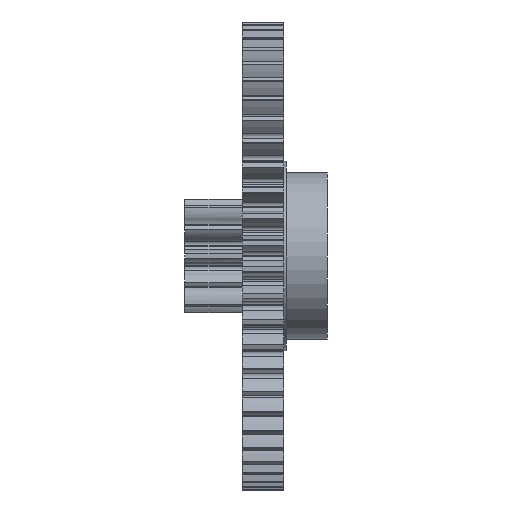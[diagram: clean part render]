
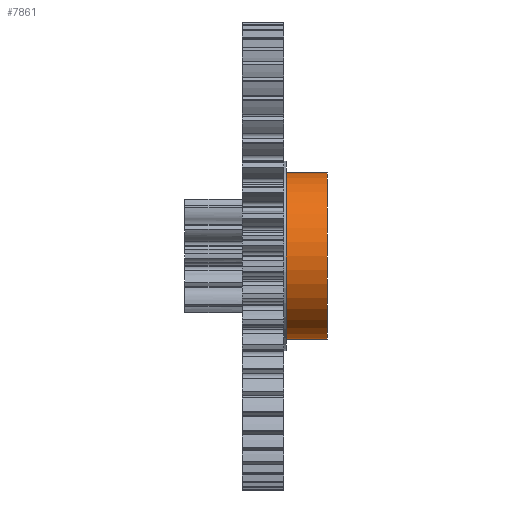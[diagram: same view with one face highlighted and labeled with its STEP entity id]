
A CAD part, front view. The second image highlights one B-rep face of the part: STEP entity #7861.
In plain terms, the highlighted cylindrical face has radius 10.075 mm (diameter 20.15 mm), a partial arc.
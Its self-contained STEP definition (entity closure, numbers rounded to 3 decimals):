
#5 = DIRECTION ( 'NONE',  ( -1., 0., 0. ) ) ;
#215 = CARTESIAN_POINT ( 'NONE',  ( 9.3, 0., -10.075 ) ) ;
#253 = CARTESIAN_POINT ( 'NONE',  ( 4.3, 0., 10.075 ) ) ;
#523 = CYLINDRICAL_SURFACE ( 'NONE', #4611, 10.075 ) ;
#648 = CARTESIAN_POINT ( 'NONE',  ( 9.3, 0., 0. ) ) ;
#2012 = VECTOR ( 'NONE', #11935, 1000. ) ;
#3681 = CARTESIAN_POINT ( 'NONE',  ( 9.3, 0., 10.075 ) ) ;
#3683 = ORIENTED_EDGE ( 'NONE', *, *, #15730, .F. ) ;
#3701 = ORIENTED_EDGE ( 'NONE', *, *, #14109, .T. ) ;
#4611 = AXIS2_PLACEMENT_3D ( 'NONE', #648, #21158, #12478 ) ;
#6323 = EDGE_CURVE ( 'NONE', #21805, #16761, #17182, .T. ) ;
#6399 = CARTESIAN_POINT ( 'NONE',  ( 9.3, 0., -10.075 ) ) ;
#7861 = ADVANCED_FACE ( 'NONE', ( #9015 ), #523, .T. ) ;
#8191 = ORIENTED_EDGE ( 'NONE', *, *, #6323, .F. ) ;
#8442 = DIRECTION ( 'NONE',  ( 1., 0., 0. ) ) ;
#8916 = VERTEX_POINT ( 'NONE', #15002 ) ;
#8994 = CARTESIAN_POINT ( 'NONE',  ( 4.3, 0., -10.075 ) ) ;
#9015 = FACE_OUTER_BOUND ( 'NONE', #10882, .T. ) ;
#9022 = AXIS2_PLACEMENT_3D ( 'NONE', #9200, #19463, #17569 ) ;
#9200 = CARTESIAN_POINT ( 'NONE',  ( 9.3, 0., 0. ) ) ;
#10882 = EDGE_LOOP ( 'NONE', ( #8191, #3683, #11700, #3701 ) ) ;
#11569 = CARTESIAN_POINT ( 'NONE',  ( 4.3, 0., 0. ) ) ;
#11700 = ORIENTED_EDGE ( 'NONE', *, *, #20721, .T. ) ;
#11935 = DIRECTION ( 'NONE',  ( -1., 0., 0. ) ) ;
#12271 = LINE ( 'NONE', #3681, #2012 ) ;
#12478 = DIRECTION ( 'NONE',  ( 0., 0., 1. ) ) ;
#13814 = VECTOR ( 'NONE', #5, 1000. ) ;
#14109 = EDGE_CURVE ( 'NONE', #21861, #16761, #19908, .T. ) ;
#15002 = CARTESIAN_POINT ( 'NONE',  ( 9.3, 0., 10.075 ) ) ;
#15730 = EDGE_CURVE ( 'NONE', #8916, #21805, #18290, .T. ) ;
#16761 = VERTEX_POINT ( 'NONE', #8994 ) ;
#17182 = LINE ( 'NONE', #215, #13814 ) ;
#17414 = AXIS2_PLACEMENT_3D ( 'NONE', #11569, #8442, #18378 ) ;
#17569 = DIRECTION ( 'NONE',  ( 0., 0., -1. ) ) ;
#18290 = CIRCLE ( 'NONE', #9022, 10.075 ) ;
#18378 = DIRECTION ( 'NONE',  ( 0., 0., -1. ) ) ;
#19463 = DIRECTION ( 'NONE',  ( 1., 0., 0. ) ) ;
#19908 = CIRCLE ( 'NONE', #17414, 10.075 ) ;
#20721 = EDGE_CURVE ( 'NONE', #8916, #21861, #12271, .T. ) ;
#21158 = DIRECTION ( 'NONE',  ( -1., 0., 0. ) ) ;
#21805 = VERTEX_POINT ( 'NONE', #6399 ) ;
#21861 = VERTEX_POINT ( 'NONE', #253 ) ;
